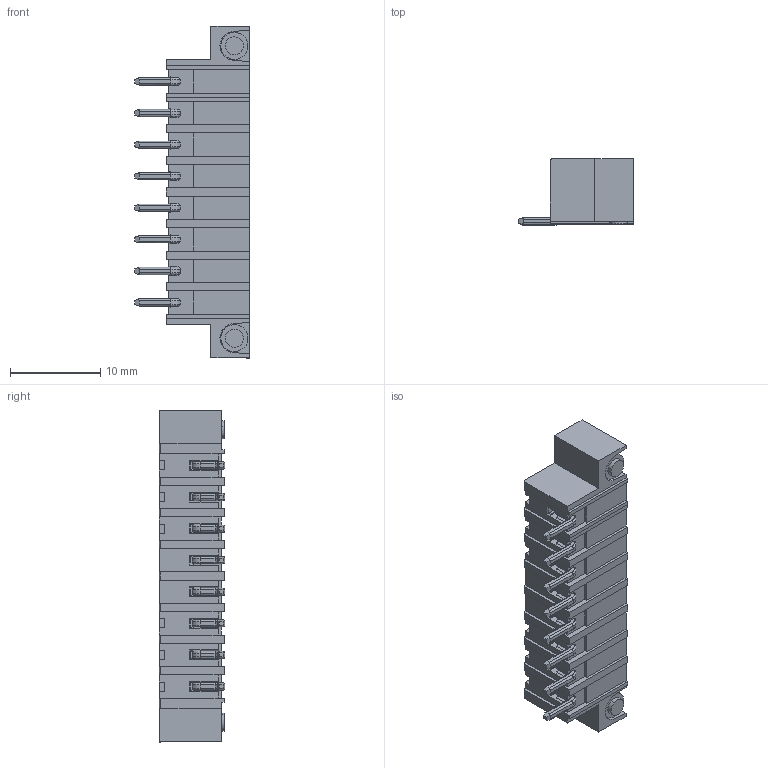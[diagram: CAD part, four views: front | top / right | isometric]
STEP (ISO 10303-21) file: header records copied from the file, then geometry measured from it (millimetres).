
FILE_DESCRIPTION (( 'STEP AP214' ), '1' );
FILE_NAME ('110-M-216-SMD-08.STEP', '2016-12-06T15:08:50', ( '' ), ( '' ), 'SwSTEP 2.0', 'SolidWorks 2016', '' );
FILE_SCHEMA (( 'AUTOMOTIVE_DESIGN' ));
Length unit declared in the file: millimetre
Products named in the file (1): 110-M-216-SMD-08
Bounding box: 12.7 x 7.3 x 36.8 mm (x, y, z)
Volume: 1109.9 mm3; surface area: 2945 mm2
Topology: 1 solids, 1 shells, 1115 faces, 2900 edges, 1813 vertices
Faces by surface type: plane 755, cylinder 254, cone 58, bspline 48
Entity records: 36774 total; most frequent: CARTESIAN_POINT 11601, ORIENTED_EDGE 5800, DIRECTION 4293, EDGE_CURVE 2900, VERTEX_POINT 1813, LINE 1701, VECTOR 1701, AXIS2_PLACEMENT_3D 1296
